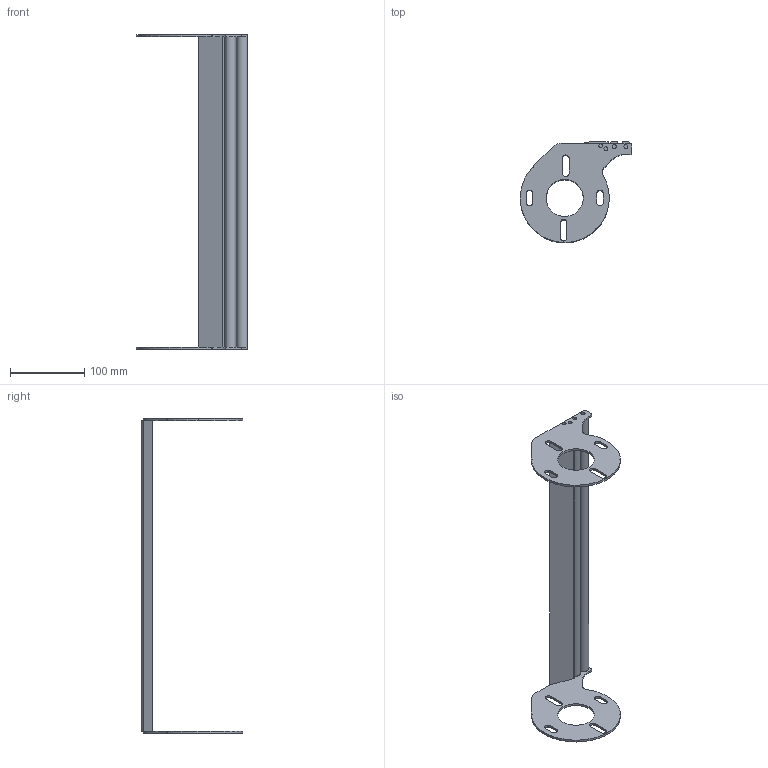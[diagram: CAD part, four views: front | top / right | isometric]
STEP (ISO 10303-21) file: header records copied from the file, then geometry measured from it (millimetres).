
FILE_DESCRIPTION (( 'STEP AP214' ), '1' );
FILE_NAME ('F2 1500 TG1R.step', '2017-04-05T06:48:27', ( '' ), ( '' ), 'SwSTEP 2.0', 'SolidWorks 2015', '' );
FILE_SCHEMA (( 'AUTOMOTIVE_DESIGN' ));
Length unit declared in the file: millimetre
Products named in the file (1): F2 1500 TG1R
Bounding box: 150.4 x 136.54 x 424 mm (x, y, z)
Volume: 326996.4 mm3; surface area: 123337.5 mm2
Topology: 1 solids, 1 shells, 114 faces, 312 edges, 204 vertices
Faces by surface type: plane 61, cylinder 53
Entity records: 4838 total; most frequent: DIRECTION 656, CARTESIAN_POINT 631, ORIENTED_EDGE 624, EDGE_CURVE 312, AXIS2_PLACEMENT_3D 229, VERTEX_POINT 204, VECTOR 198, LINE 198
